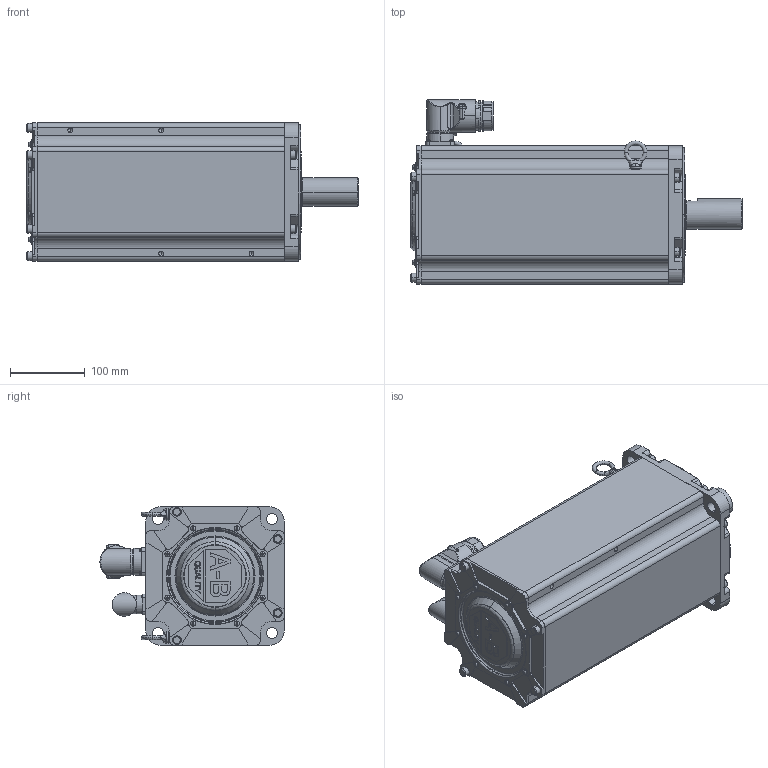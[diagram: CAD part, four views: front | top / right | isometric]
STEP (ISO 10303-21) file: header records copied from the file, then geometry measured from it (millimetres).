
FILE_DESCRIPTION (( 'STEP AP214' ), '1' );
FILE_NAME ('Rockwell Automation-MPL-x660x-xJ74AA.STEP', '2015-07-08T13:41:57', ( 'Windows User' ), ( '' ), 'SwSTEP 2.0', 'SolidWorks 2015', '' );
FILE_SCHEMA (( 'AUTOMOTIVE_DESIGN' ));
Length unit declared in the file: inch
Products named in the file (6): Rockwell Automation-MPL-x660x-xJ74AA_MPL-6xx-Eyebolt; Rockwell Automation-MPL-x660x-xJ74AA_MPL-6xx-Encoder Connector; Rockwell Automation-MPL-x660x-xJ74AA_MPL-6xx-Power Connector-M40; Rockwell Automation-MPL-x660x-xJ74AA_MPL-6xx-Shaft-Key_660-shaft-keyed-BRAKE; Rockwell Automation-MPL-x660x-xJ74AA_MPL-6xx-Body_660-BRAKE; Rockwell Automation-MPL-x660x-xJ74AA
Assembly tree (6 placements, depth 2):
  Rockwell Automation-MPL-x660x-xJ74AA
    Rockwell Automation-MPL-x660x-xJ74AA_MPL-6xx-Body_660-BRAKE
    Rockwell Automation-MPL-x660x-xJ74AA_MPL-6xx-Shaft-Key_660-shaft-keyed-BRAKE
    Rockwell Automation-MPL-x660x-xJ74AA_MPL-6xx-Power Connector-M40
    Rockwell Automation-MPL-x660x-xJ74AA_MPL-6xx-Encoder Connector
    Rockwell Automation-MPL-x660x-xJ74AA_MPL-6xx-Eyebolt  x2
Bounding box: 443.48 x 246.11 x 184.66 mm (x, y, z)
Volume: 5949288 mm3; surface area: 723057.2 mm2
Topology: 9 solids, 9 shells, 1036 faces, 2553 edges, 1625 vertices
Faces by surface type: plane 436, cylinder 357, torus 108, cone 84, bspline 51
Entity records: 35917 total; most frequent: CARTESIAN_POINT 9440, DIRECTION 5277, ORIENTED_EDGE 4984, EDGE_CURVE 2492, AXIS2_PLACEMENT_3D 1967, VERTEX_POINT 1599, VECTOR 1343, LINE 1343
